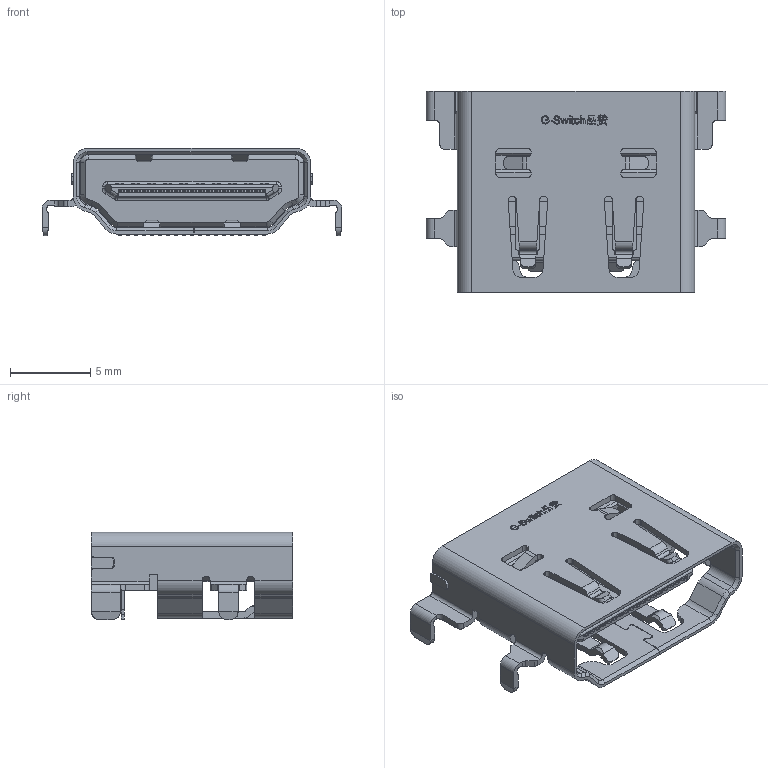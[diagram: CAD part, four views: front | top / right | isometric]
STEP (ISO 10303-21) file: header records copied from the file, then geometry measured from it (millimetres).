
FILE_DESCRIPTION (( 'STEP AP203' ), '1' );
FILE_NAME ('GT-HD003B-XXXGX.stp', '2024-06-29T09:44:56', ( '' ), ( '' ), 'SwSTEP 2.0', 'SolidWorks 2023', '' );
FILE_SCHEMA (( 'CONFIG_CONTROL_DESIGN' ));
Length unit declared in the file: millimetre
Products named in the file (1): GT-HD003B-XXXGX
Bounding box: 18.7 x 12.55 x 5.45 mm (x, y, z)
Volume: 401.2 mm3; surface area: 1334.5 mm2
Topology: 1 solids, 2 shells, 1704 faces, 4764 edges, 3099 vertices
Faces by surface type: plane 1285, cylinder 312, bspline 77, cone 24, torus 6
Entity records: 58521 total; most frequent: CARTESIAN_POINT 15037, ORIENTED_EDGE 9528, DIRECTION 8289, EDGE_CURVE 4764, VECTOR 3809, LINE 3809, VERTEX_POINT 3099, AXIS2_PLACEMENT_3D 2240
